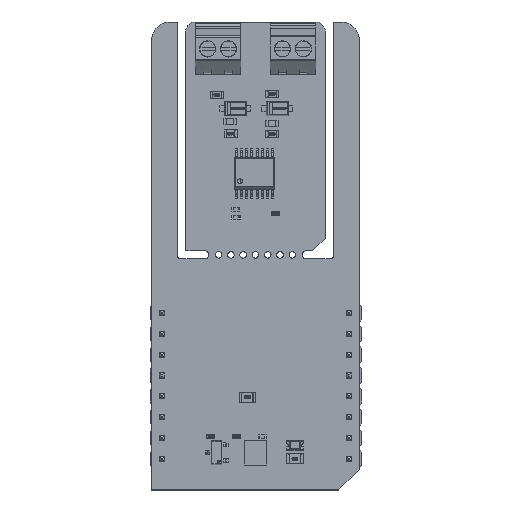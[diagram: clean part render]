
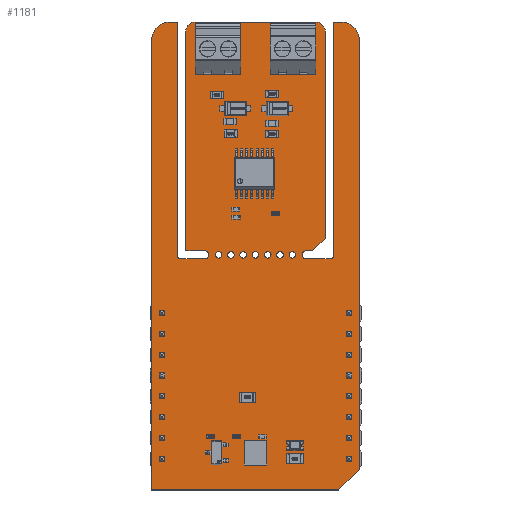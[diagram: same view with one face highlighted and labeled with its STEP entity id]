
A CAD part, top view. The second image highlights one B-rep face of the part: STEP entity #1181.
In plain terms, the highlighted planar face has unit normal (0, 0, 1).
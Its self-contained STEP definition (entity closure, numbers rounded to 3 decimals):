
#144 = VERTEX_POINT('',#145);
#145 = CARTESIAN_POINT('',(1.905,24.8,1.59));
#151 = EDGE_CURVE('',#144,#152,#154,.T.);
#152 = VERTEX_POINT('',#153);
#153 = CARTESIAN_POINT('',(2.305,24.4,1.59));
#154 = CIRCLE('',#155,0.399);
#155 = AXIS2_PLACEMENT_3D('',#156,#157,#158);
#156 = CARTESIAN_POINT('',(2.304,24.799,1.59));
#157 = DIRECTION('',(0.,0.,1.));
#158 = DIRECTION('',(-1.,0.001,0.));
#184 = EDGE_CURVE('',#152,#185,#187,.T.);
#185 = VERTEX_POINT('',#186);
#186 = CARTESIAN_POINT('',(5.23,24.4,1.59));
#187 = LINE('',#188,#189);
#188 = CARTESIAN_POINT('',(2.305,24.4,1.59));
#189 = VECTOR('',#190,1.);
#190 = DIRECTION('',(1.,0.,0.));
#215 = EDGE_CURVE('',#185,#216,#218,.T.);
#216 = VERTEX_POINT('',#217);
#217 = CARTESIAN_POINT('',(5.23,25.4,1.59));
#218 = CIRCLE('',#219,0.5);
#219 = AXIS2_PLACEMENT_3D('',#220,#221,#222);
#220 = CARTESIAN_POINT('',(5.23,24.9,1.59));
#221 = DIRECTION('',(0.,0.,1.));
#222 = DIRECTION('',(-0.,-1.,0.));
#248 = EDGE_CURVE('',#216,#249,#251,.T.);
#249 = VERTEX_POINT('',#250);
#250 = CARTESIAN_POINT('',(2.921,25.4,1.59));
#251 = LINE('',#252,#253);
#252 = CARTESIAN_POINT('',(5.23,25.4,1.59));
#253 = VECTOR('',#254,1.);
#254 = DIRECTION('',(-1.,0.,0.));
#279 = EDGE_CURVE('',#249,#280,#282,.T.);
#280 = VERTEX_POINT('',#281);
#281 = CARTESIAN_POINT('',(2.921,52.197,1.59));
#282 = LINE('',#283,#284);
#283 = CARTESIAN_POINT('',(2.921,25.4,1.59));
#284 = VECTOR('',#285,1.);
#285 = DIRECTION('',(0.,1.,0.));
#310 = EDGE_CURVE('',#280,#311,#313,.T.);
#311 = VERTEX_POINT('',#312);
#312 = CARTESIAN_POINT('',(4.064,53.34,1.59));
#313 = CIRCLE('',#314,1.144);
#314 = AXIS2_PLACEMENT_3D('',#315,#316,#317);
#315 = CARTESIAN_POINT('',(4.065,52.196,1.59));
#316 = DIRECTION('',(0.,0.,-1.));
#317 = DIRECTION('',(-1.,0.001,0.));
#343 = EDGE_CURVE('',#311,#344,#346,.T.);
#344 = VERTEX_POINT('',#345);
#345 = CARTESIAN_POINT('',(18.796,53.34,1.59));
#346 = LINE('',#347,#348);
#347 = CARTESIAN_POINT('',(4.064,53.34,1.59));
#348 = VECTOR('',#349,1.);
#349 = DIRECTION('',(1.,0.,0.));
#374 = EDGE_CURVE('',#344,#375,#377,.T.);
#375 = VERTEX_POINT('',#376);
#376 = CARTESIAN_POINT('',(19.939,52.197,1.59));
#377 = CIRCLE('',#378,1.144);
#378 = AXIS2_PLACEMENT_3D('',#379,#380,#381);
#379 = CARTESIAN_POINT('',(18.795,52.196,1.59));
#380 = DIRECTION('',(0.,0.,-1.));
#381 = DIRECTION('',(0.001,1.,0.));
#407 = EDGE_CURVE('',#375,#408,#410,.T.);
#408 = VERTEX_POINT('',#409);
#409 = CARTESIAN_POINT('',(19.939,26.924,1.59));
#410 = LINE('',#411,#412);
#411 = CARTESIAN_POINT('',(19.939,52.197,1.59));
#412 = VECTOR('',#413,1.);
#413 = DIRECTION('',(0.,-1.,0.));
#438 = EDGE_CURVE('',#408,#439,#441,.T.);
#439 = VERTEX_POINT('',#440);
#440 = CARTESIAN_POINT('',(18.415,25.4,1.59));
#441 = LINE('',#442,#443);
#442 = CARTESIAN_POINT('',(19.939,26.924,1.59));
#443 = VECTOR('',#444,1.);
#444 = DIRECTION('',(-0.707,-0.707,0.));
#469 = EDGE_CURVE('',#439,#470,#472,.T.);
#470 = VERTEX_POINT('',#471);
#471 = CARTESIAN_POINT('',(17.63,25.4,1.59));
#472 = LINE('',#473,#474);
#473 = CARTESIAN_POINT('',(18.415,25.4,1.59));
#474 = VECTOR('',#475,1.);
#475 = DIRECTION('',(-1.,0.,0.));
#500 = EDGE_CURVE('',#470,#501,#503,.T.);
#501 = VERTEX_POINT('',#502);
#502 = CARTESIAN_POINT('',(17.63,24.4,1.59));
#503 = CIRCLE('',#504,0.5);
#504 = AXIS2_PLACEMENT_3D('',#505,#506,#507);
#505 = CARTESIAN_POINT('',(17.63,24.9,1.59));
#506 = DIRECTION('',(0.,-0.,1.));
#507 = DIRECTION('',(0.,1.,0.));
#533 = EDGE_CURVE('',#501,#534,#536,.T.);
#534 = VERTEX_POINT('',#535);
#535 = CARTESIAN_POINT('',(20.555,24.4,1.59));
#536 = LINE('',#537,#538);
#537 = CARTESIAN_POINT('',(17.63,24.4,1.59));
#538 = VECTOR('',#539,1.);
#539 = DIRECTION('',(1.,0.,0.));
#564 = EDGE_CURVE('',#534,#565,#567,.T.);
#565 = VERTEX_POINT('',#566);
#566 = CARTESIAN_POINT('',(20.955,24.8,1.59));
#567 = CIRCLE('',#568,0.399);
#568 = AXIS2_PLACEMENT_3D('',#569,#570,#571);
#569 = CARTESIAN_POINT('',(20.556,24.799,1.59));
#570 = DIRECTION('',(0.,0.,1.));
#571 = DIRECTION('',(-0.001,-1.,0.));
#597 = EDGE_CURVE('',#565,#598,#600,.T.);
#598 = VERTEX_POINT('',#599);
#599 = CARTESIAN_POINT('',(20.955,53.34,1.59));
#600 = LINE('',#601,#602);
#601 = CARTESIAN_POINT('',(20.955,24.8,1.59));
#602 = VECTOR('',#603,1.);
#603 = DIRECTION('',(0.,1.,0.));
#628 = EDGE_CURVE('',#598,#629,#631,.T.);
#629 = VERTEX_POINT('',#630);
#630 = CARTESIAN_POINT('',(21.844,53.34,1.59));
#631 = LINE('',#632,#633);
#632 = CARTESIAN_POINT('',(20.955,53.34,1.59));
#633 = VECTOR('',#634,1.);
#634 = DIRECTION('',(1.,0.,0.));
#659 = EDGE_CURVE('',#629,#660,#662,.T.);
#660 = VERTEX_POINT('',#661);
#661 = CARTESIAN_POINT('',(24.13,51.054,1.59));
#662 = CIRCLE('',#663,2.288);
#663 = AXIS2_PLACEMENT_3D('',#664,#665,#666);
#664 = CARTESIAN_POINT('',(21.842,51.052,1.59));
#665 = DIRECTION('',(0.,0.,-1.));
#666 = DIRECTION('',(0.001,1.,0.));
#692 = EDGE_CURVE('',#660,#693,#695,.T.);
#693 = VERTEX_POINT('',#694);
#694 = CARTESIAN_POINT('',(24.13,-1.27,1.59));
#695 = LINE('',#696,#697);
#696 = CARTESIAN_POINT('',(24.13,51.054,1.59));
#697 = VECTOR('',#698,1.);
#698 = DIRECTION('',(0.,-1.,0.));
#723 = EDGE_CURVE('',#693,#724,#726,.T.);
#724 = VERTEX_POINT('',#725);
#725 = CARTESIAN_POINT('',(21.59,-3.81,1.59));
#726 = LINE('',#727,#728);
#727 = CARTESIAN_POINT('',(24.13,-1.27,1.59));
#728 = VECTOR('',#729,1.);
#729 = DIRECTION('',(-0.707,-0.707,0.));
#754 = EDGE_CURVE('',#724,#755,#757,.T.);
#755 = VERTEX_POINT('',#756);
#756 = CARTESIAN_POINT('',(-1.27,-3.81,1.59));
#757 = LINE('',#758,#759);
#758 = CARTESIAN_POINT('',(21.59,-3.81,1.59));
#759 = VECTOR('',#760,1.);
#760 = DIRECTION('',(-1.,0.,0.));
#785 = EDGE_CURVE('',#755,#786,#788,.T.);
#786 = VERTEX_POINT('',#787);
#787 = CARTESIAN_POINT('',(-1.27,51.054,1.59));
#788 = LINE('',#789,#790);
#789 = CARTESIAN_POINT('',(-1.27,-3.81,1.59));
#790 = VECTOR('',#791,1.);
#791 = DIRECTION('',(0.,1.,0.));
#816 = EDGE_CURVE('',#786,#817,#819,.T.);
#817 = VERTEX_POINT('',#818);
#818 = CARTESIAN_POINT('',(1.016,53.34,1.59));
#819 = CIRCLE('',#820,2.288);
#820 = AXIS2_PLACEMENT_3D('',#821,#822,#823);
#821 = CARTESIAN_POINT('',(1.018,51.052,1.59));
#822 = DIRECTION('',(0.,0.,-1.));
#823 = DIRECTION('',(-1.,0.001,0.));
#849 = EDGE_CURVE('',#817,#850,#852,.T.);
#850 = VERTEX_POINT('',#851);
#851 = CARTESIAN_POINT('',(1.905,53.34,1.59));
#852 = LINE('',#853,#854);
#853 = CARTESIAN_POINT('',(1.016,53.34,1.59));
#854 = VECTOR('',#855,1.);
#855 = DIRECTION('',(1.,0.,0.));
#880 = EDGE_CURVE('',#850,#144,#881,.T.);
#881 = LINE('',#882,#883);
#882 = CARTESIAN_POINT('',(1.905,53.34,1.59));
#883 = VECTOR('',#884,1.);
#884 = DIRECTION('',(0.,-1.,0.));
#904 = VERTEX_POINT('',#905);
#905 = CARTESIAN_POINT('',(7.33,24.9,1.59));
#911 = EDGE_CURVE('',#904,#904,#912,.T.);
#912 = CIRCLE('',#913,0.4);
#913 = AXIS2_PLACEMENT_3D('',#914,#915,#916);
#914 = CARTESIAN_POINT('',(6.93,24.9,1.59));
#915 = DIRECTION('',(0.,0.,1.));
#916 = DIRECTION('',(1.,0.,-0.));
#937 = VERTEX_POINT('',#938);
#938 = CARTESIAN_POINT('',(8.83,24.9,1.59));
#944 = EDGE_CURVE('',#937,#937,#945,.T.);
#945 = CIRCLE('',#946,0.4);
#946 = AXIS2_PLACEMENT_3D('',#947,#948,#949);
#947 = CARTESIAN_POINT('',(8.43,24.9,1.59));
#948 = DIRECTION('',(0.,0.,1.));
#949 = DIRECTION('',(1.,0.,-0.));
#970 = VERTEX_POINT('',#971);
#971 = CARTESIAN_POINT('',(10.33,24.9,1.59));
#977 = EDGE_CURVE('',#970,#970,#978,.T.);
#978 = CIRCLE('',#979,0.4);
#979 = AXIS2_PLACEMENT_3D('',#980,#981,#982);
#980 = CARTESIAN_POINT('',(9.93,24.9,1.59));
#981 = DIRECTION('',(0.,0.,1.));
#982 = DIRECTION('',(1.,0.,-0.));
#1003 = VERTEX_POINT('',#1004);
#1004 = CARTESIAN_POINT('',(14.83,24.9,1.59));
#1010 = EDGE_CURVE('',#1003,#1003,#1011,.T.);
#1011 = CIRCLE('',#1012,0.4);
#1012 = AXIS2_PLACEMENT_3D('',#1013,#1014,#1015);
#1013 = CARTESIAN_POINT('',(14.43,24.9,1.59));
#1014 = DIRECTION('',(0.,0.,1.));
#1015 = DIRECTION('',(1.,0.,-0.));
#1036 = VERTEX_POINT('',#1037);
#1037 = CARTESIAN_POINT('',(16.33,24.9,1.59));
#1043 = EDGE_CURVE('',#1036,#1036,#1044,.T.);
#1044 = CIRCLE('',#1045,0.4);
#1045 = AXIS2_PLACEMENT_3D('',#1046,#1047,#1048);
#1046 = CARTESIAN_POINT('',(15.93,24.9,1.59));
#1047 = DIRECTION('',(0.,0.,1.));
#1048 = DIRECTION('',(1.,0.,-0.));
#1069 = VERTEX_POINT('',#1070);
#1070 = CARTESIAN_POINT('',(11.83,24.9,1.59));
#1076 = EDGE_CURVE('',#1069,#1069,#1077,.T.);
#1077 = CIRCLE('',#1078,0.4);
#1078 = AXIS2_PLACEMENT_3D('',#1079,#1080,#1081);
#1079 = CARTESIAN_POINT('',(11.43,24.9,1.59));
#1080 = DIRECTION('',(0.,0.,1.));
#1081 = DIRECTION('',(1.,0.,-0.));
#1102 = VERTEX_POINT('',#1103);
#1103 = CARTESIAN_POINT('',(13.33,24.9,1.59));
#1109 = EDGE_CURVE('',#1102,#1102,#1110,.T.);
#1110 = CIRCLE('',#1111,0.4);
#1111 = AXIS2_PLACEMENT_3D('',#1112,#1113,#1114);
#1112 = CARTESIAN_POINT('',(12.93,24.9,1.59));
#1113 = DIRECTION('',(0.,0.,1.));
#1114 = DIRECTION('',(1.,0.,-0.));
#1181 = ADVANCED_FACE('',(#1182,#1208,#1211,#1214,#1217,#1220,#1223,
    #1226),#1229,.F.);
#1182 = FACE_BOUND('',#1183,.F.);
#1183 = EDGE_LOOP('',(#1184,#1185,#1186,#1187,#1188,#1189,#1190,#1191,
    #1192,#1193,#1194,#1195,#1196,#1197,#1198,#1199,#1200,#1201,#1202,
    #1203,#1204,#1205,#1206,#1207));
#1184 = ORIENTED_EDGE('',*,*,#151,.T.);
#1185 = ORIENTED_EDGE('',*,*,#184,.T.);
#1186 = ORIENTED_EDGE('',*,*,#215,.T.);
#1187 = ORIENTED_EDGE('',*,*,#248,.T.);
#1188 = ORIENTED_EDGE('',*,*,#279,.T.);
#1189 = ORIENTED_EDGE('',*,*,#310,.T.);
#1190 = ORIENTED_EDGE('',*,*,#343,.T.);
#1191 = ORIENTED_EDGE('',*,*,#374,.T.);
#1192 = ORIENTED_EDGE('',*,*,#407,.T.);
#1193 = ORIENTED_EDGE('',*,*,#438,.T.);
#1194 = ORIENTED_EDGE('',*,*,#469,.T.);
#1195 = ORIENTED_EDGE('',*,*,#500,.T.);
#1196 = ORIENTED_EDGE('',*,*,#533,.T.);
#1197 = ORIENTED_EDGE('',*,*,#564,.T.);
#1198 = ORIENTED_EDGE('',*,*,#597,.T.);
#1199 = ORIENTED_EDGE('',*,*,#628,.T.);
#1200 = ORIENTED_EDGE('',*,*,#659,.T.);
#1201 = ORIENTED_EDGE('',*,*,#692,.T.);
#1202 = ORIENTED_EDGE('',*,*,#723,.T.);
#1203 = ORIENTED_EDGE('',*,*,#754,.T.);
#1204 = ORIENTED_EDGE('',*,*,#785,.T.);
#1205 = ORIENTED_EDGE('',*,*,#816,.T.);
#1206 = ORIENTED_EDGE('',*,*,#849,.T.);
#1207 = ORIENTED_EDGE('',*,*,#880,.T.);
#1208 = FACE_BOUND('',#1209,.F.);
#1209 = EDGE_LOOP('',(#1210));
#1210 = ORIENTED_EDGE('',*,*,#911,.T.);
#1211 = FACE_BOUND('',#1212,.F.);
#1212 = EDGE_LOOP('',(#1213));
#1213 = ORIENTED_EDGE('',*,*,#944,.T.);
#1214 = FACE_BOUND('',#1215,.F.);
#1215 = EDGE_LOOP('',(#1216));
#1216 = ORIENTED_EDGE('',*,*,#977,.T.);
#1217 = FACE_BOUND('',#1218,.F.);
#1218 = EDGE_LOOP('',(#1219));
#1219 = ORIENTED_EDGE('',*,*,#1010,.T.);
#1220 = FACE_BOUND('',#1221,.F.);
#1221 = EDGE_LOOP('',(#1222));
#1222 = ORIENTED_EDGE('',*,*,#1043,.T.);
#1223 = FACE_BOUND('',#1224,.F.);
#1224 = EDGE_LOOP('',(#1225));
#1225 = ORIENTED_EDGE('',*,*,#1076,.T.);
#1226 = FACE_BOUND('',#1227,.F.);
#1227 = EDGE_LOOP('',(#1228));
#1228 = ORIENTED_EDGE('',*,*,#1109,.T.);
#1229 = PLANE('',#1230);
#1230 = AXIS2_PLACEMENT_3D('',#1231,#1232,#1233);
#1231 = CARTESIAN_POINT('',(11.331,30.13,1.59));
#1232 = DIRECTION('',(-0.,-0.,-1.));
#1233 = DIRECTION('',(-1.,0.,0.));
